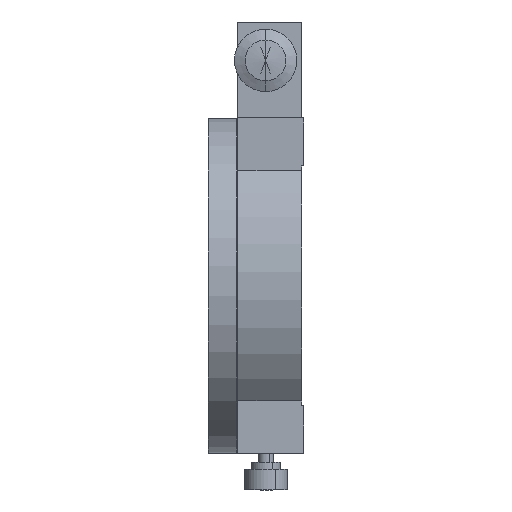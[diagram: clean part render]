
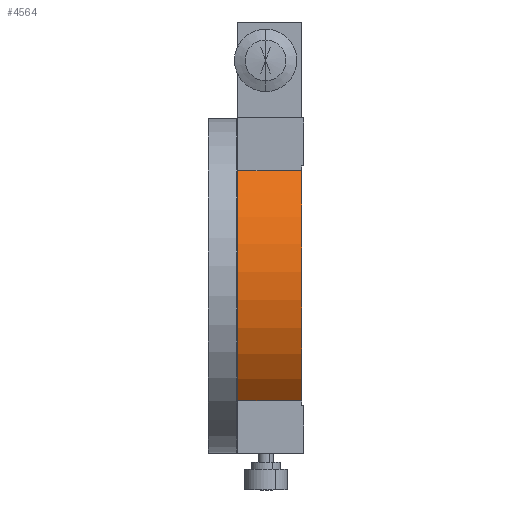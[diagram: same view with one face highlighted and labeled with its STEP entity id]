
A CAD part, left-side view. The second image highlights one B-rep face of the part: STEP entity #4564.
In plain terms, the highlighted cylindrical face has radius 35 mm (diameter 70 mm), a partial arc.
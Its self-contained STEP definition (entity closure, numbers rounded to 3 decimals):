
#323 = CARTESIAN_POINT ( 'NONE',  ( -25.475, 0.5, -24. ) ) ;
#324 = DIRECTION ( 'NONE',  ( 1., 0., 0. ) ) ;
#325 = DIRECTION ( 'NONE',  ( 0., -1., 0. ) ) ;
#326 = CARTESIAN_POINT ( 'NONE',  ( 0., 0.5, 0. ) ) ;
#327 = AXIS2_PLACEMENT_3D ( 'NONE', #326, #325, #324 ) ;
#328 = CIRCLE ( 'NONE', #327, 35. ) ;
#329 = CARTESIAN_POINT ( 'NONE',  ( -25.475, 0.5, 24. ) ) ;
#358 = CARTESIAN_POINT ( 'NONE',  ( -25.475, 13.8, 24. ) ) ;
#359 = DIRECTION ( 'NONE',  ( -1., 0., 0. ) ) ;
#360 = DIRECTION ( 'NONE',  ( 0., 1., 0. ) ) ;
#361 = CARTESIAN_POINT ( 'NONE',  ( 0., 13.8, 0. ) ) ;
#362 = AXIS2_PLACEMENT_3D ( 'NONE', #361, #360, #359 ) ;
#363 = CIRCLE ( 'NONE', #362, 35. ) ;
#364 = CARTESIAN_POINT ( 'NONE',  ( -25.475, 13.8, -24. ) ) ;
#760 = DIRECTION ( 'NONE',  ( 0., -1., 0. ) ) ;
#761 = VECTOR ( 'NONE', #760, 1000. ) ;
#762 = CARTESIAN_POINT ( 'NONE',  ( -25.475, 13.8, -24. ) ) ;
#763 = LINE ( 'NONE', #762, #761 ) ;
#1250 = DIRECTION ( 'NONE',  ( 1., 0., 0. ) ) ;
#1251 = DIRECTION ( 'NONE',  ( 0., -1., 0. ) ) ;
#1252 = CARTESIAN_POINT ( 'NONE',  ( 0., 13.8, 0. ) ) ;
#1253 = AXIS2_PLACEMENT_3D ( 'NONE', #1252, #1251, #1250 ) ;
#1254 = CYLINDRICAL_SURFACE ( 'NONE', #1253, 35. ) ;
#1256 = FACE_OUTER_BOUND ( 'NONE', #4565, .T. ) ;
#1257 = DIRECTION ( 'NONE',  ( 0., -1., 0. ) ) ;
#1258 = VECTOR ( 'NONE', #1257, 1000. ) ;
#1259 = CARTESIAN_POINT ( 'NONE',  ( -25.475, 13.8, 24. ) ) ;
#1260 = LINE ( 'NONE', #1259, #1258 ) ;
#3999 = VERTEX_POINT ( 'NONE', #329 ) ;
#4001 = EDGE_CURVE ( 'NONE', #3999, #4002, #328, .T. ) ;
#4002 = VERTEX_POINT ( 'NONE', #323 ) ;
#4074 = VERTEX_POINT ( 'NONE', #364 ) ;
#4076 = EDGE_CURVE ( 'NONE', #4074, #4077, #363, .T. ) ;
#4077 = VERTEX_POINT ( 'NONE', #358 ) ;
#4325 = ORIENTED_EDGE ( 'NONE', *, *, #4076, .F. ) ;
#4326 = ORIENTED_EDGE ( 'NONE', *, *, #4327, .T. ) ;
#4327 = EDGE_CURVE ( 'NONE', #4074, #4002, #763, .T. ) ;
#4563 = EDGE_CURVE ( 'NONE', #4077, #3999, #1260, .T. ) ;
#4564 = ADVANCED_FACE ( 'NONE', ( #1256 ), #1254, .T. ) ;
#4565 = EDGE_LOOP ( 'NONE', ( #4566, #4567, #4325, #4326 ) ) ;
#4566 = ORIENTED_EDGE ( 'NONE', *, *, #4001, .F. ) ;
#4567 = ORIENTED_EDGE ( 'NONE', *, *, #4563, .F. ) ;
